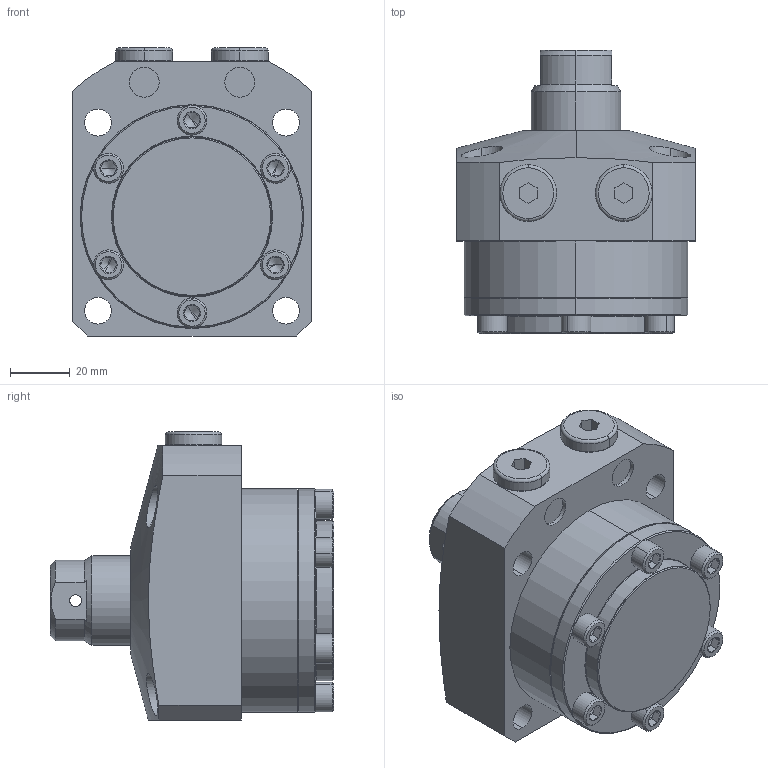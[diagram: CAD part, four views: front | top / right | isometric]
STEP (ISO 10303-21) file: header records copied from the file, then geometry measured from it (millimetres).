
FILE_DESCRIPTION (( 'STEP AP203' ), '1' );
FILE_NAME ('680750-CB-015.step', '2016-11-02T03:27:29', ( 'wxp' ), ( '' ), 'SwSTEP 2.0', 'SolidWorks 2011', '' );
FILE_SCHEMA (( 'CONFIG_CONTROL_DESIGN' ));
Length unit declared in the file: millimetre
Products named in the file (6): 68075-CA-15-4^680750-CB-015; 68075-CA-15-3^680750-CB-015; 68075-CA-15-2^680750-CB-015; 68075-CA-15-1^680750-CB-015; 680750-CB-015; 68075-CA-15-5^680750-CB-015
Assembly tree (11 placements, depth 2):
  680750-CB-015
    68075-CA-15-5^680750-CB-015  x2
    68075-CA-15-4^680750-CB-015  x6
    68075-CA-15-1^680750-CB-015
    68075-CA-15-3^680750-CB-015
    68075-CA-15-2^680750-CB-015
Bounding box: 80 x 95 x 96.5 mm (x, y, z)
Volume: 355031 mm3; surface area: 58045 mm2
Topology: 11 solids, 11 shells, 345 faces, 681 edges, 374 vertices
Faces by surface type: plane 138, cone 96, cylinder 95, torus 16
Entity records: 5897 total; most frequent: CARTESIAN_POINT 1366, DIRECTION 861, ORIENTED_EDGE 710, AXIS2_PLACEMENT_3D 360, EDGE_CURVE 355, VERTEX_POINT 217, EDGE_LOOP 206, CIRCLE 182
